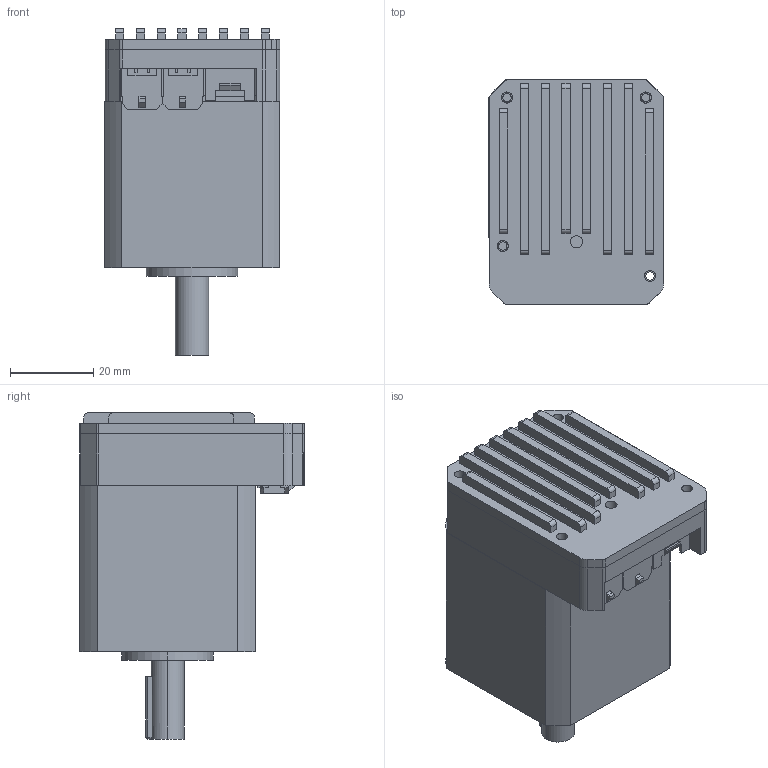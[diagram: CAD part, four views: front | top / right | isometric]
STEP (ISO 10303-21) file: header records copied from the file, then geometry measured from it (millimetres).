
FILE_DESCRIPTION (( 'STEP AP214' ), '1' );
FILE_NAME ('4240_FULL_KEYWAY_STEP.STEP', '2024-05-22T05:05:07', ( 'shaun' ), ( '' ), 'SwSTEP 2.0', 'SolidWorks 2020', '' );
FILE_SCHEMA (( 'AUTOMOTIVE_DESIGN' ));
Length unit declared in the file: millimetre
Products named in the file (6): 42_F_UPPER_20230305; 4240_BODY_KEYWAY; 42_controller; 42_PCB; 4240_FULL_KEYWAY_STEP; 42_F_LOWER_20230305
Assembly tree (5 placements, depth 3):
  4240_FULL_KEYWAY_STEP
    42_controller
      42_F_LOWER_20230305
      42_F_UPPER_20230305
      42_PCB
    4240_BODY_KEYWAY
Bounding box: 42.2 x 54 x 78.5 mm (x, y, z)
Volume: 88756.8 mm3; surface area: 40234.2 mm2
Topology: 9 solids, 9 shells, 1115 faces, 2918 edges, 1878 vertices
Faces by surface type: plane 871, cylinder 234, cone 8, sphere 2
Entity records: 43141 total; most frequent: CARTESIAN_POINT 5928, ORIENTED_EDGE 5832, DIRECTION 5639, EDGE_CURVE 2916, VECTOR 2437, LINE 2437, VERTEX_POINT 1878, AXIS2_PLACEMENT_3D 1601
